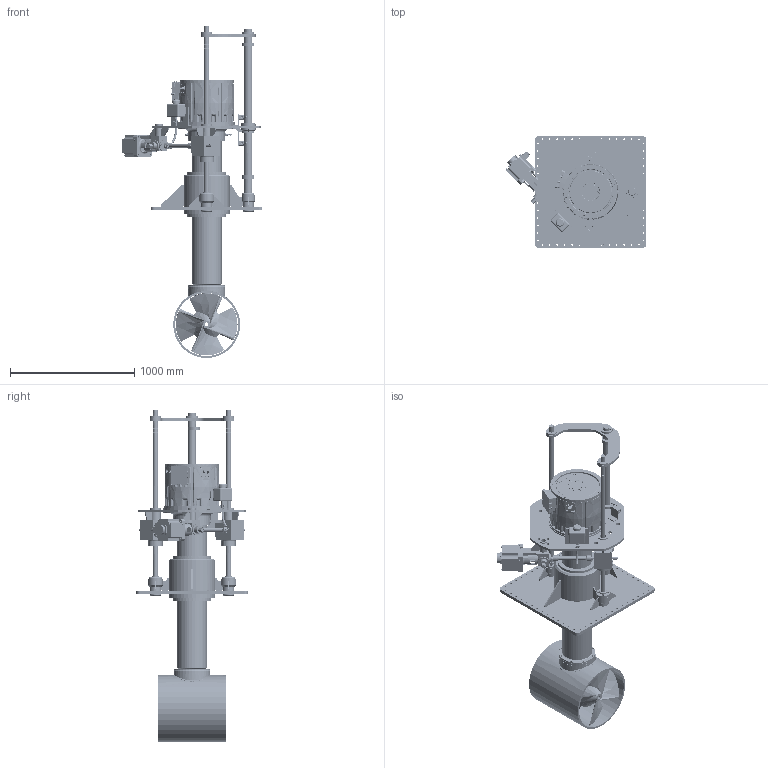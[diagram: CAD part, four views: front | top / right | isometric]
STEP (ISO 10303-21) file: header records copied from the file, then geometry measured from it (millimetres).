
FILE_DESCRIPTION(/* description */ (''),/* implementation_level */ '2;1');
FILE_NAME(/* name */ 'Q:\THRUSTERS\THRUSTER SALES & SUPPORT DOCS\THRUSTER Sales\E-V\E-0500-V\E-0500-V-DEPLOYED.stp',/* time_stamp */ '2021-02-04T10:16:50+00:00',/* author */ ('Barney.Webborn'),/* organization */ (''),/* preprocessor_version */ 'ST-DEVELOPER v17.2',/* originating_system */ 'Autodesk Inventor 2019',/* authorisation */ '');
FILE_SCHEMA (('AUTOMOTIVE_DESIGN { 1 0 10303 214 3 1 1 }'));
Products named in the file (1): E-0500-V_Shrinkwrap_1
Bounding box: 1136.37 x 900 x 2676.59 mm (x, y, z)
Volume: 169624953.4 mm3; surface area: 12766157.9 mm2
Topology: 8 solids, 8 shells, 7574 faces, 20479 edges, 13231 vertices
Faces by surface type: plane 3668, cylinder 2071, bspline 784, cone 584, torus 363, sphere 104
Full cylindrical faces by diameter (mm): 3 x6, 4.917 x6, 4.95 x4, 5.5 x4, 6 x6, 6.5 x2, 7 x8, 7.2 x2, 8 x8, 8.5 x9, 9 x4, 9.43 x7, 9.5 x2, 9.525 x1, 9.95 x6, 10 x10, 10.2 x2, 10.56 x2, 11.3 x1, 12 x12, 12.3 x3, 12.4 x12, 13 x164, 13.157 x1, 13.5 x4, 13.9 x2, 14.287 x1, 14.5 x2, 14.662 x2, 14.9 x1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
Entity records: 288895 total; most frequent: CARTESIAN_POINT 92592, ORIENTED_EDGE 40698, DIRECTION 38253, EDGE_CURVE 20349, AXIS2_PLACEMENT_3D 14125, VERTEX_POINT 13231, LINE 10003, VECTOR 10003
